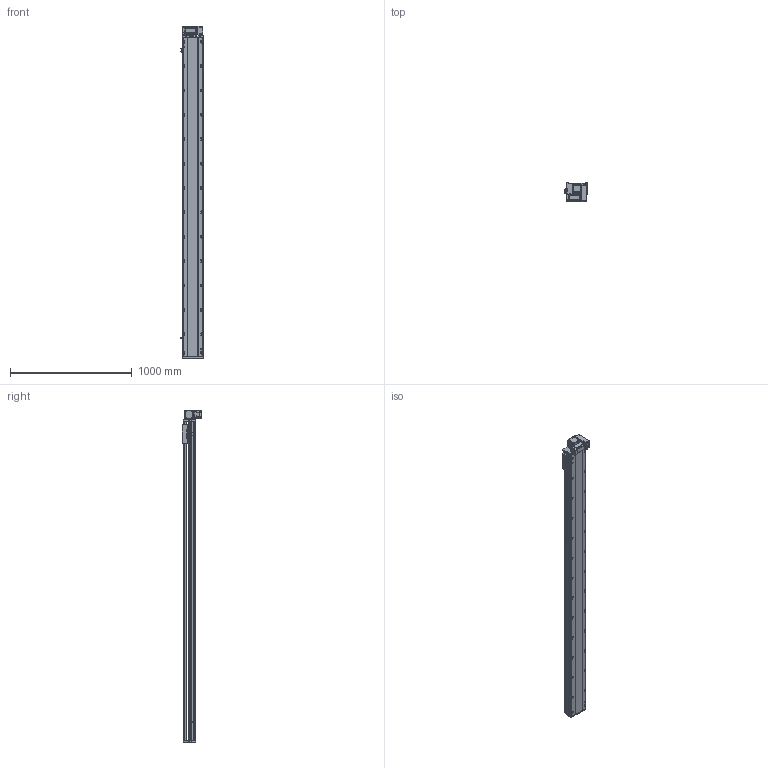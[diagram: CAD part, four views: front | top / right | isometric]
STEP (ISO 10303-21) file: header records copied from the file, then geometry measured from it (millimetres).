
FILE_DESCRIPTION (( 'STEP AP214' ), '1' );
FILE_NAME ('RTB17S-XX-2350-RM-M40-C4.STEP', '2025-12-11T08:29:02', ( '' ), ( '' ), 'SwSTEP 2.0', 'SolidWorks 2018', '' );
FILE_SCHEMA (( 'AUTOMOTIVE_DESIGN' ));
Length unit declared in the file: millimetre
Products named in the file (14): RTB14-L-017P^RTB17S-RM-々湍釱蚾饜-400W_RTB17S-XX-XX-RM-M40-C4; RTB17S-L-004佪裝蹟譫蟀諉釱^RTB17S-XX-XX-RM-M40-C4; RTB17S-RM-々湍釱蚾饜-400W^RTB17S-XX-XX-RM-M40-C4; RTB17S-L-007奻裔^RTB17S-XX-XX-RM-M40-C4; RTH13-BL-012覜茼え俋离^RTB17S-XX-XX-RM-M40-C4; RTB17S-XX-2350-RM-M40-C4; RTB14-L-005P--轴承塑胶压盖^RTB17S-RM-皮带座装配-400W_RTB17S-XX-XX-RM-M40-C4; 400W侜督萇儂^RTB17S-XX-XX-RM-M40-C4; RTB14-L-018P^RTB17S-RM-々湍釱蚾饜-400W_RTB17S-XX-XX-RM-M40-C4; RTB17-R-011菁釱^RTB17S-XX-XX-RM-M40-C4; RTB14-L-008-M20--萇儂啣^RTB17S-RM-々湍釱蚾饜-400W_RTB17S-XX-XX-RM-M40-C4; RTB17S-L-014-T20--々湍釱^RTB17S-RM-々湍釱蚾饜-400W_RTB17S-XX-XX-RM-M40-C4; RTB17S-L-001耜醱啣^RTB17S-XX-XX-RM-M40-C4; OMRON EE-SX672 传感器^RTB17S-XX-XX-RM-M40-C4
Assembly tree (16 placements, depth 3):
  RTB17S-XX-2350-RM-M40-C4
    RTB17-R-011菁釱^RTB17S-XX-XX-RM-M40-C4
    RTB17S-L-007奻裔^RTB17S-XX-XX-RM-M40-C4
    OMRON EE-SX672 传感器^RTB17S-XX-XX-RM-M40-C4  x3
    RTB17S-L-001耜醱啣^RTB17S-XX-XX-RM-M40-C4
    400W侜督萇儂^RTB17S-XX-XX-RM-M40-C4
    RTB17S-L-004佪裝蹟譫蟀諉釱^RTB17S-XX-XX-RM-M40-C4
    RTH13-BL-012覜茼え俋离^RTB17S-XX-XX-RM-M40-C4
    RTB17S-RM-々湍釱蚾饜-400W^RTB17S-XX-XX-RM-M40-C4
      RTB17S-L-014-T20--々湍釱^RTB17S-RM-々湍釱蚾饜-400W_RTB17S-XX-XX-RM-M40-C4
      RTB14-L-005P--轴承塑胶压盖^RTB17S-RM-皮带座装配-400W_RTB17S-XX-XX-RM-M40-C4
      RTB14-L-008-M20--萇儂啣^RTB17S-RM-々湍釱蚾饜-400W_RTB17S-XX-XX-RM-M40-C4
      RTB14-L-017P^RTB17S-RM-々湍釱蚾饜-400W_RTB17S-XX-XX-RM-M40-C4  x2
      RTB14-L-018P^RTB17S-RM-々湍釱蚾饜-400W_RTB17S-XX-XX-RM-M40-C4
Bounding box: 183.5 x 156.5 x 2722.5 mm (x, y, z)
Volume: 23383487.2 mm3; surface area: 2698608.2 mm2
Topology: 15 solids, 15 shells, 2317 faces, 6465 edges, 4221 vertices
Faces by surface type: plane 1082, cylinder 787, bspline 301, cone 139, torus 8
Entity records: 68009 total; most frequent: CARTESIAN_POINT 19270, ORIENTED_EDGE 9774, DIRECTION 9026, EDGE_CURVE 4887, VERTEX_POINT 3209, AXIS2_PLACEMENT_3D 3139, VECTOR 2748, LINE 2748
